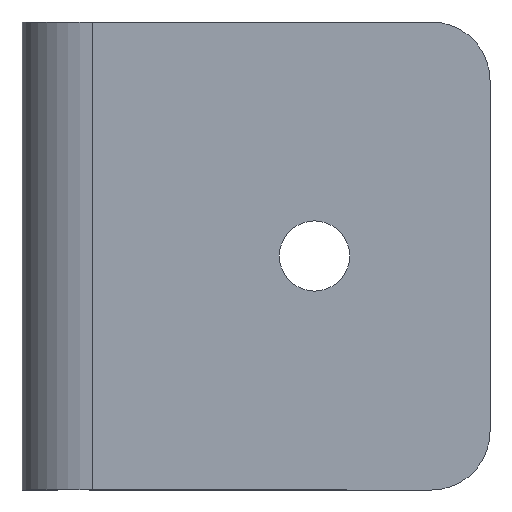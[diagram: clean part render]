
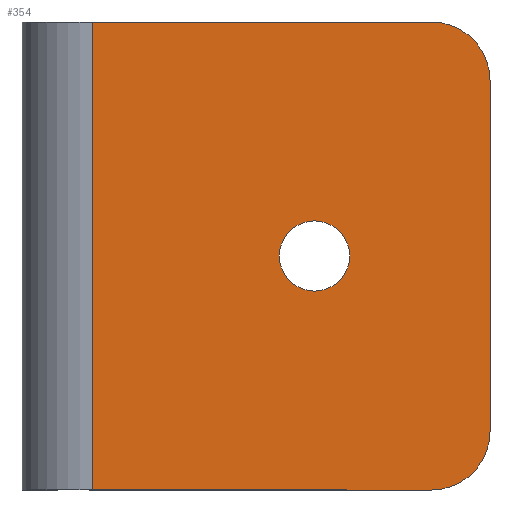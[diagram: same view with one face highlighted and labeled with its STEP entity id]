
A CAD part, front view. The second image highlights one B-rep face of the part: STEP entity #354.
In plain terms, the highlighted planar face has unit normal (0, -1, 0).
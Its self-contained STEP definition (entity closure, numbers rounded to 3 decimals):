
#1=CARTESIAN_POINT('',(25.,0.,20.));
#2=DIRECTION('',(0.,-1.,0.));
#3=DIRECTION('',(1.,0.,0.));
#4=AXIS2_PLACEMENT_3D('',#1,#2,#3);
#6=CARTESIAN_POINT('',(25.,0.,20.));
#7=DIRECTION('',(0.,-1.,0.));
#8=DIRECTION('',(-1.,0.,0.));
#9=AXIS2_PLACEMENT_3D('',#6,#7,#8);
#11=CARTESIAN_POINT('',(35.,0.,5.));
#12=DIRECTION('',(0.,-1.,0.));
#13=DIRECTION('',(0.,0.,-1.));
#14=AXIS2_PLACEMENT_3D('',#11,#12,#13);
#16=DIRECTION('',(0.,0.,-1.));
#17=VECTOR('',#16,40.);
#18=CARTESIAN_POINT('',(6.,0.,40.));
#19=LINE('',#18,#17);
#20=CARTESIAN_POINT('',(35.,0.,35.));
#21=DIRECTION('',(0.,-1.,0.));
#22=DIRECTION('',(1.,0.,0.));
#23=AXIS2_PLACEMENT_3D('',#20,#21,#22);
#61=DIRECTION('',(0.,0.,1.));
#62=VECTOR('',#61,30.);
#63=CARTESIAN_POINT('',(40.,0.,5.));
#64=LINE('',#63,#62);
#77=DIRECTION('',(1.,0.,0.));
#78=VECTOR('',#77,29.);
#79=CARTESIAN_POINT('',(6.,0.,40.));
#80=LINE('',#79,#78);
#169=DIRECTION('',(1.,0.,0.));
#170=VECTOR('',#169,29.);
#171=CARTESIAN_POINT('',(6.,0.,0.));
#172=LINE('',#171,#170);
#261=CARTESIAN_POINT('',(6.,0.,40.));
#262=CARTESIAN_POINT('',(6.,0.,0.));
#263=VERTEX_POINT('',#261);
#264=VERTEX_POINT('',#262);
#273=CARTESIAN_POINT('',(28.,0.,20.));
#274=CARTESIAN_POINT('',(22.,0.,20.));
#275=VERTEX_POINT('',#273);
#276=VERTEX_POINT('',#274);
#281=CARTESIAN_POINT('',(35.,0.,0.));
#282=CARTESIAN_POINT('',(40.,0.,5.));
#283=VERTEX_POINT('',#281);
#284=VERTEX_POINT('',#282);
#289=CARTESIAN_POINT('',(40.,0.,35.));
#290=CARTESIAN_POINT('',(35.,0.,40.));
#291=VERTEX_POINT('',#289);
#292=VERTEX_POINT('',#290);
#329=CARTESIAN_POINT('',(0.,0.,0.));
#330=DIRECTION('',(0.,-1.,0.));
#331=DIRECTION('',(1.,0.,0.));
#332=AXIS2_PLACEMENT_3D('',#329,#330,#331);
#333=PLANE('',#332);
#335=ORIENTED_EDGE('',*,*,#334,.F.);
#337=ORIENTED_EDGE('',*,*,#336,.F.);
#339=ORIENTED_EDGE('',*,*,#338,.F.);
#341=ORIENTED_EDGE('',*,*,#340,.T.);
#343=ORIENTED_EDGE('',*,*,#342,.F.);
#345=ORIENTED_EDGE('',*,*,#344,.F.);
#346=EDGE_LOOP('',(#335,#337,#339,#341,#343,#345));
#347=FACE_OUTER_BOUND('',#346,.F.);
#349=ORIENTED_EDGE('',*,*,#348,.T.);
#351=ORIENTED_EDGE('',*,*,#350,.T.);
#352=EDGE_LOOP('',(#349,#351));
#353=FACE_BOUND('',#352,.F.);
#354=ADVANCED_FACE('',(#347,#353),#333,.T.);
#5=CIRCLE('',#4,3.);
#10=CIRCLE('',#9,3.);
#15=CIRCLE('',#14,5.);
#24=CIRCLE('',#23,5.);
#334=EDGE_CURVE('',#283,#284,#15,.T.);
#336=EDGE_CURVE('',#264,#283,#172,.T.);
#338=EDGE_CURVE('',#263,#264,#19,.T.);
#340=EDGE_CURVE('',#263,#292,#80,.T.);
#342=EDGE_CURVE('',#291,#292,#24,.T.);
#344=EDGE_CURVE('',#284,#291,#64,.T.);
#348=EDGE_CURVE('',#275,#276,#5,.T.);
#350=EDGE_CURVE('',#276,#275,#10,.T.);
